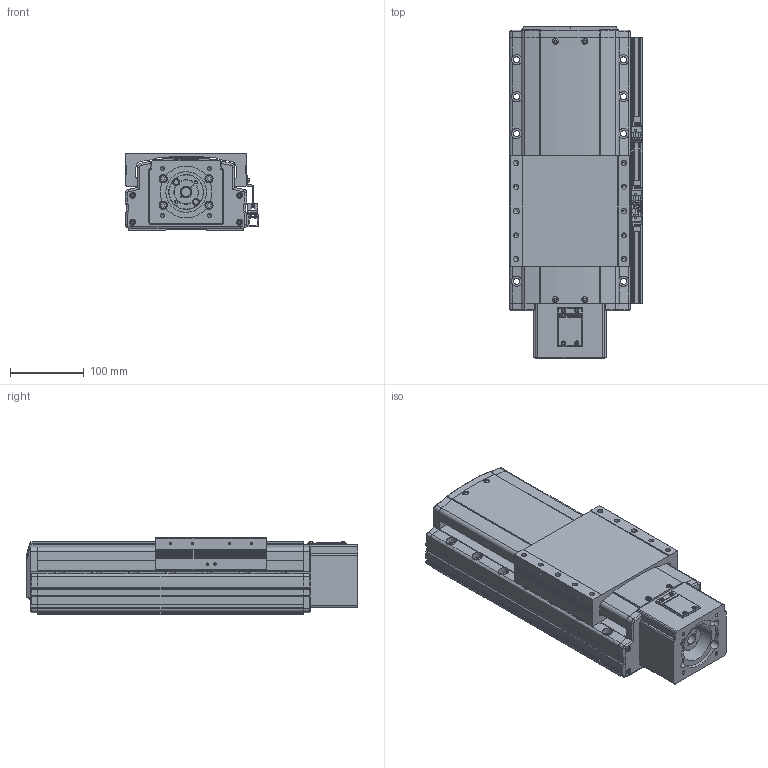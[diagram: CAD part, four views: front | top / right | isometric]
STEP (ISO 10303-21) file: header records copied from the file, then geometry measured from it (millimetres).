
FILE_DESCRIPTION(('STEP AP214'),'1');
FILE_NAME('Z:/Web/3D/PSA165/STP/PSA165-100 (3D)/PSA165ㅁㅁ-100S+3SR.stp','2014-06-23T06:21:51',(' '),(' '),'Spatial InterOp 3D',' ',' ');
FILE_SCHEMA(('automotive_design'));
Length unit declared in the file: millimetre
Products named in the file (85): 스크루 : Round - M4.0 x 12.0; RRCV-PA160; BASE; 스크루 : Round - M4.0 x 10.0; RN15; Screw 20; SLIDE; FRCV; 스크루 : Socket - M6.0 x 25.0; MTHZ-SAN150-80A; SSFX-SAN65; CPLCV-SAN65; 스크루 : Round - M3.0 x 6.0; SDWA47C(2); SDWA47C(3-1); SDWA47C(3); SDWA47C(1); SDWA47C(4); SDWA47C(5); M3.0 x 6.0; SRL-16x17-360L; SGD-SAN150; EE-SX674; SBK-SX674-352; BHCS M4.0 x 10.0
Bounding box: 181 x 449.8 x 104 mm (x, y, z)
Volume: 5977090.6 mm3; surface area: 615368.4 mm2
Topology: 85 solids, 85 shells, 3369 faces, 8927 edges, 5779 vertices
Faces by surface type: plane 1723, cylinder 1160, cone 357, sphere 70, bspline 35, torus 24
Entity records: 137453 total; most frequent: CARTESIAN_POINT 23306, DIRECTION 18611, ORIENTED_EDGE 17598, EDGE_CURVE 8799, AXIS2_PLACEMENT_3D 6614, VERTEX_POINT 5779, LINE 5383, VECTOR 5383
